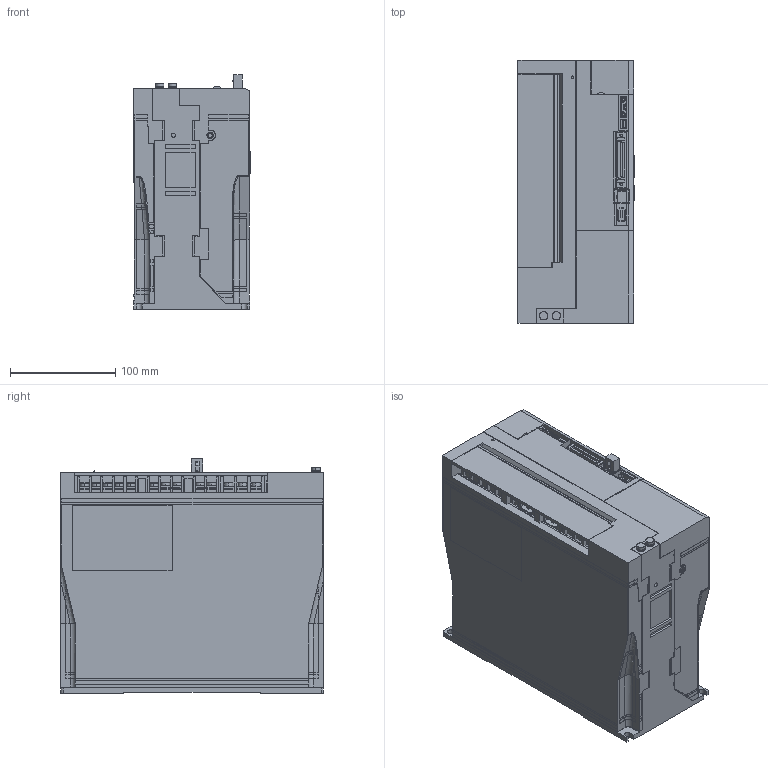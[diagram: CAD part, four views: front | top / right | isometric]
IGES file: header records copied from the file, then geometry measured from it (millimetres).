
Start section: SolidWorks IGES file using analytic representation for surfaces
Global section: file name: C:\YASKAWA\sgdv_330a0_a.IGS; native system: SolidWorks 2006 by SolidWorks Corporation; preprocessor: SolidWorks 2006 by SolidWorks Corporation; author: yamanouchi; date: 080707.135001; units: millimetre
Bounding box: 110.5 x 250 x 223 mm (x, y, z)
Surface area: 274250.8 mm2 (no closed solid volume)
Topology: 0 solids, 0 shells, 2244 faces, 19006 edges, 19006 vertices
Faces by surface type: bspline 1908, revolution 336
